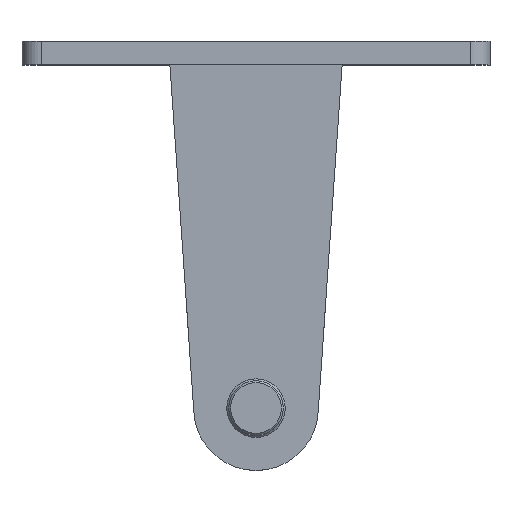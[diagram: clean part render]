
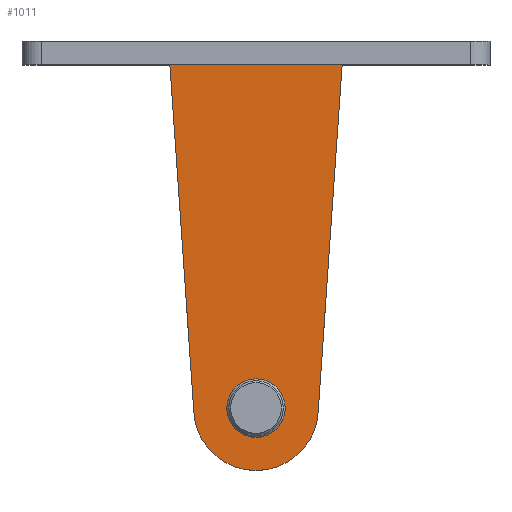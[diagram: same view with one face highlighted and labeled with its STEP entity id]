
A CAD part, top view. The second image highlights one B-rep face of the part: STEP entity #1011.
In plain terms, the highlighted planar face has unit normal (0, 0, 1).
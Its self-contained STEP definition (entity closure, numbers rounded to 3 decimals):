
#94=CIRCLE('',#1148,7.5);
#97=CIRCLE('',#1152,16.);
#242=ORIENTED_EDGE('',*,*,#458,.T.);
#243=ORIENTED_EDGE('',*,*,#450,.F.);
#244=ORIENTED_EDGE('',*,*,#461,.F.);
#245=ORIENTED_EDGE('',*,*,#456,.F.);
#246=ORIENTED_EDGE('',*,*,#453,.F.);
#450=EDGE_CURVE('',#570,#571,#666,.T.);
#453=EDGE_CURVE('',#571,#573,#669,.T.);
#456=EDGE_CURVE('',#573,#575,#672,.T.);
#458=EDGE_CURVE('',#576,#576,#94,.T.);
#461=EDGE_CURVE('',#575,#570,#97,.T.);
#570=VERTEX_POINT('',#1671);
#571=VERTEX_POINT('',#1673);
#573=VERTEX_POINT('',#1679);
#575=VERTEX_POINT('',#1685);
#576=VERTEX_POINT('',#1689);
#666=LINE('',#1672,#736);
#669=LINE('',#1678,#739);
#672=LINE('',#1684,#742);
#736=VECTOR('',#1338,1000.);
#739=VECTOR('',#1343,1000.);
#742=VECTOR('',#1348,1000.);
#806=EDGE_LOOP('',(#242));
#807=EDGE_LOOP('',(#243,#244,#245,#246));
#898=FACE_BOUND('',#806,.T.);
#899=FACE_BOUND('',#807,.T.);
#973=PLANE('',#1153);
#1011=ADVANCED_FACE('',(#898,#899),#973,.F.);
#1148=AXIS2_PLACEMENT_3D('',#1688,#1352,#1353);
#1152=AXIS2_PLACEMENT_3D('',#1694,#1360,#1361);
#1153=AXIS2_PLACEMENT_3D('',#1695,#1362,#1363);
#1338=DIRECTION('',(0.069,-0.998,0.));
#1343=DIRECTION('',(-1.,0.,0.));
#1348=DIRECTION('',(0.069,0.998,0.));
#1352=DIRECTION('',(0.,0.,-1.));
#1353=DIRECTION('',(1.,0.,0.));
#1360=DIRECTION('',(0.,0.,-1.));
#1361=DIRECTION('',(-1.,0.,0.));
#1362=DIRECTION('',(0.,0.,-1.));
#1363=DIRECTION('',(-1.,0.,0.));
#1671=CARTESIAN_POINT('',(16.,94.,4.));
#1672=CARTESIAN_POINT('',(22.5,0.,4.));
#1673=CARTESIAN_POINT('',(22.5,0.,4.));
#1678=CARTESIAN_POINT('',(22.5,0.,4.));
#1679=CARTESIAN_POINT('',(-22.5,0.,4.));
#1684=CARTESIAN_POINT('',(-22.5,0.,4.));
#1685=CARTESIAN_POINT('',(-16.,94.,4.));
#1688=CARTESIAN_POINT('',(0.,94.,4.));
#1689=CARTESIAN_POINT('',(7.5,94.,4.));
#1694=CARTESIAN_POINT('',(0.,94.,4.));
#1695=CARTESIAN_POINT('',(0.,94.,4.));
